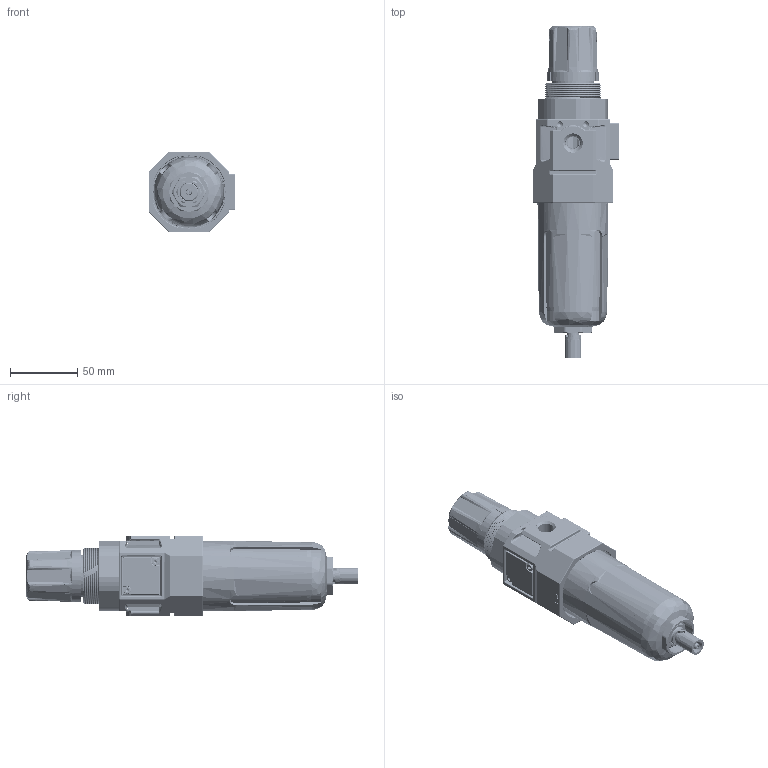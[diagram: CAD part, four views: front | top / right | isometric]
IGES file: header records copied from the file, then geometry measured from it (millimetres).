
Start section: SolidWorks IGES file using analytic representation for surfaces
Bounding box: 64.5 x 247.3 x 60 mm (x, y, z)
Surface area: 142682 mm2 (no closed solid volume)
Topology: 0 solids, 0 shells, 3179 faces, 30779 edges, 30701 vertices
Faces by surface type: revolution 1621, bspline 1558
